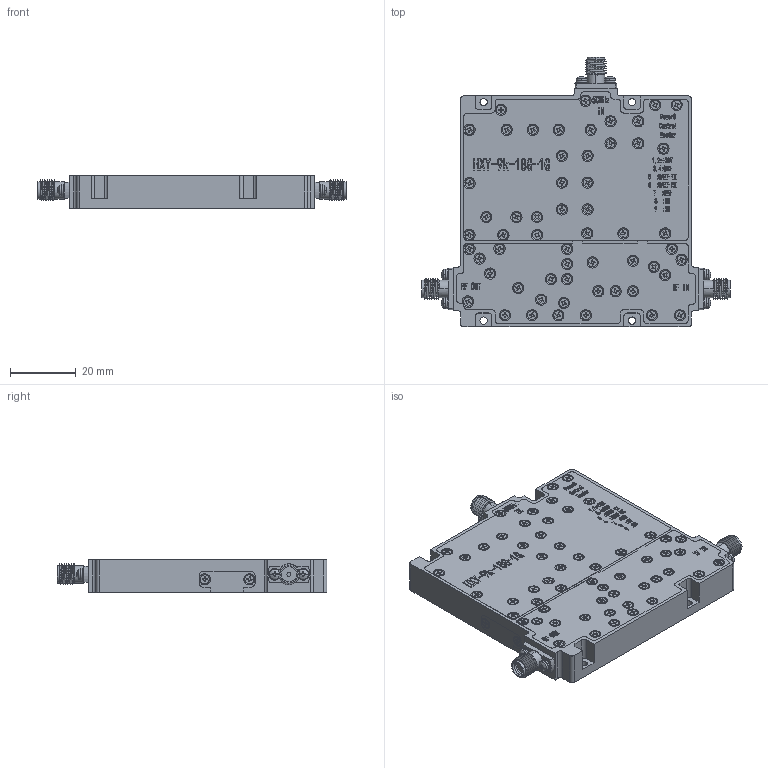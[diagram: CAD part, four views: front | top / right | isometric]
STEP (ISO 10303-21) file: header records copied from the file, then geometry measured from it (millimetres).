
FILE_DESCRIPTION (( 'STEP AP214' ), '1' );
FILE_NAME ('9K-18G×°ÅäÌå1.STEP', '2026-08-27T10:21:29', ( '' ), ( '' ), 'SwSTEP 2.0', 'SolidWorks 2020', '' );
FILE_SCHEMA (( 'AUTOMOTIVE_DESIGN' ));
Length unit declared in the file: millimetre
Products named in the file (17): SMA-8.6潔擒樓蹟隊; 褲极; NY251638; plain washers-s series-grade a gb_GB_FASTENER_WASHER_PWSA 1.6; cross recessed countersunk head screws gb1_GB_CROSS_SCREWS_TYPE4 M1.6X3-2  H type-N; PCB; cross recessed pan head screws gb_GB_CROSS_SCREWS_TYPE1 M1.6X4-4  H type-N; SMA-8.6潔擒; spring lock washers--normal type gb_GB_FASTENER_WASHER_SW 2; 裔啣1; 裔啣2; 9K-18G蚾饜极1; 裔啣4; 裔啣3; 路Х; M1.6蹟隊郪蚾; J63A-9
Assembly tree (79 placements, depth 4):
  9K-18G蚾饜极1
    褲极
    NY251638  x3
    路Х
    裔啣1
    裔啣2
    裔啣3
    裔啣4
    PCB
    J63A-9
    cross recessed countersunk head screws gb1_GB_CROSS_SCREWS_TYPE4 M1.6X3-2  H type-N  x59
    SMA-8.6潔擒樓蹟隊  x3
      SMA-8.6潔擒
      M1.6蹟隊郪蚾
        cross recessed pan head screws gb_GB_CROSS_SCREWS_TYPE1 M1.6X4-4  H type-N
        spring lock washers--normal type gb_GB_FASTENER_WASHER_SW 2
        plain washers-s series-grade a gb_GB_FASTENER_WASHER_PWSA 1.6
Bounding box: 93.5 x 81.75 x 10 mm (x, y, z)
Volume: 27913.8 mm3; surface area: 46399.8 mm2
Topology: 91 solids, 91 shells, 4593 faces, 12078 edges, 7801 vertices
Faces by surface type: plane 2418, cylinder 1454, cone 426, bspline 283, sphere 12
Entity records: 123930 total; most frequent: CARTESIAN_POINT 40700, ORIENTED_EDGE 15036, DIRECTION 13227, EDGE_CURVE 7518, VERTEX_POINT 4955, LINE 4851, VECTOR 4851, AXIS2_PLACEMENT_3D 4188
